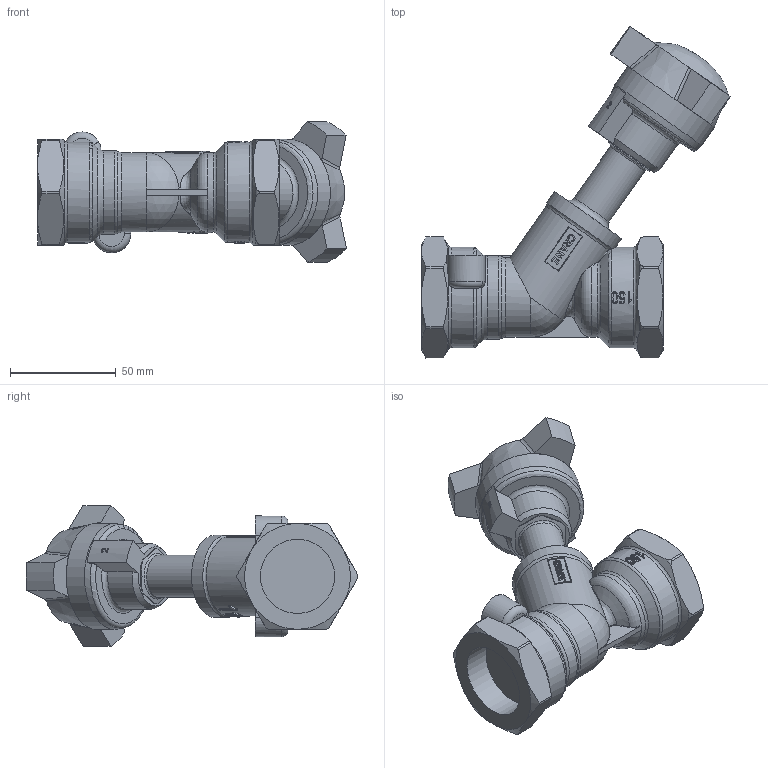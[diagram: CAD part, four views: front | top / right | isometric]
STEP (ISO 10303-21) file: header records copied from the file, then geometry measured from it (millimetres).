
FILE_DESCRIPTION((''),'2;1');
FILE_NAME('P:\Fastrack\53972_CRANE 3D\Workspace\CRANE\D921_1 1-4in\D921_1 1-4in.stp','2011-03-04T15:33:13',('btaylor'),(''),'Autodesk Inventor 2008','Autodesk Inventor 2008','');
FILE_SCHEMA(('AUTOMOTIVE_DESIGN { 1 0 10303 214 1 1 1 1 }'));
Length unit declared in the file: millimetre
Products named in the file (1): D921_1 1-4in
Bounding box: 145.84 x 156.7 x 66.44 mm (x, y, z)
Volume: 279522.9 mm3; surface area: 42176.8 mm2
Topology: 1 solids, 1 shells, 779 faces, 2103 edges, 1373 vertices
Faces by surface type: bspline 343, plane 318, cylinder 76, cone 22, torus 18, sphere 2
Full cylindrical faces by diameter (mm): 20 x1, 38.8 x1, 47.4 x1, 50 x1
Entity records: 68449 total; most frequent: CARTESIAN_POINT 50634, ORIENTED_EDGE 4150, DIRECTION 2428, EDGE_CURVE 2075, VERTEX_POINT 1364, VECTOR 968, LINE 968, EDGE_LOOP 845
